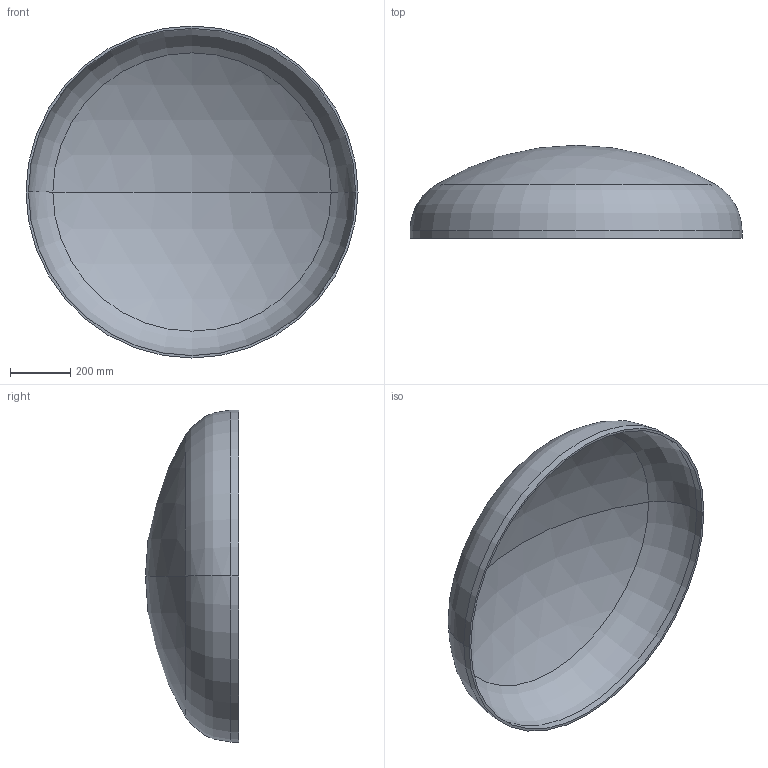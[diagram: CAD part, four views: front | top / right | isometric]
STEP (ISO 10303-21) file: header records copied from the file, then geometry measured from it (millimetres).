
FILE_DESCRIPTION (( 'STEP AP203' ), '1' );
FILE_NAME ('DIN 28013 Korbbogenform_-_Boden DIN 28013 - 1100 x 25 - I - s=8.step', '2016-07-01T09:00:08', ( '' ), ( '' ), 'SwSTEP 2.0', 'SolidWorks 2013', '' );
FILE_SCHEMA (( 'CONFIG_CONTROL_DESIGN' ));
Length unit declared in the file: millimetre
Products named in the file (1): DIN 28013 Korbbogenform_-_Boden DIN 28013 - 1100 x 25 - I - s=8
Bounding box: 1100 x 308.26 x 1100 mm (x, y, z)
Volume: 11122249.8 mm3; surface area: 2808140.4 mm2
Topology: 1 solids, 1 shells, 13 faces, 24 edges, 14 vertices
Faces by surface type: torus 4, cylinder 4, sphere 4, plane 1
Entity records: 407 total; most frequent: DIRECTION 72, CARTESIAN_POINT 52, ORIENTED_EDGE 48, AXIS2_PLACEMENT_3D 34, EDGE_CURVE 24, CIRCLE 20, EDGE_LOOP 14, VERTEX_POINT 14
